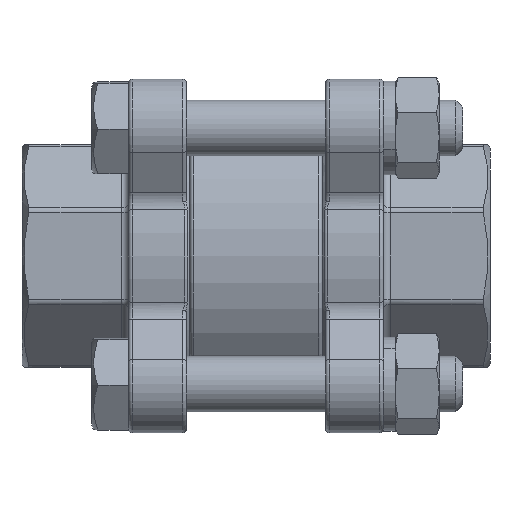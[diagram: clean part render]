
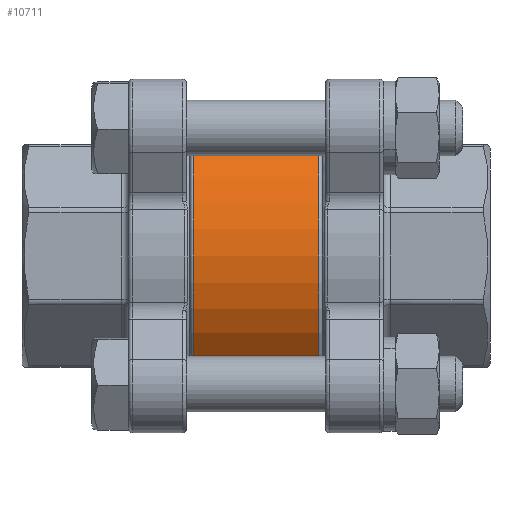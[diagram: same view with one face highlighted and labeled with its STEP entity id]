
A CAD part, front view. The second image highlights one B-rep face of the part: STEP entity #10711.
In plain terms, the highlighted cylindrical face has radius 22.05 mm (diameter 44.1 mm), a partial arc.
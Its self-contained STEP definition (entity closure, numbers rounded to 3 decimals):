
#394 = CYLINDRICAL_SURFACE ( 'NONE', #1617, 22.05 ) ;
#1225 = VERTEX_POINT ( 'NONE', #11566 ) ;
#1240 = ORIENTED_EDGE ( 'NONE', *, *, #7552, .T. ) ;
#1472 = ORIENTED_EDGE ( 'NONE', *, *, #2022, .T. ) ;
#1528 = AXIS2_PLACEMENT_3D ( 'NONE', #10979, #4800, #12018 ) ;
#1617 = AXIS2_PLACEMENT_3D ( 'NONE', #10594, #2425, #3483 ) ;
#2022 = EDGE_CURVE ( 'NONE', #1225, #6417, #6700, .T. ) ;
#2100 = VERTEX_POINT ( 'NONE', #7557 ) ;
#2261 = CARTESIAN_POINT ( 'NONE',  ( 18.5, 0., 0. ) ) ;
#2425 = DIRECTION ( 'NONE',  ( -1., 0., 0. ) ) ;
#2783 = FACE_OUTER_BOUND ( 'NONE', #10462, .T. ) ;
#3298 = DIRECTION ( 'NONE',  ( 0., 0., 1. ) ) ;
#3483 = DIRECTION ( 'NONE',  ( 0., 0., 1. ) ) ;
#3576 = CARTESIAN_POINT ( 'NONE',  ( -3.731, 0., -22.05 ) ) ;
#4611 = DIRECTION ( 'NONE',  ( -1., 0., 0. ) ) ;
#4800 = DIRECTION ( 'NONE',  ( -1., 0., 0. ) ) ;
#4948 = CARTESIAN_POINT ( 'NONE',  ( 0.5, 0., 22.05 ) ) ;
#6417 = VERTEX_POINT ( 'NONE', #4948 ) ;
#6700 = LINE ( 'NONE', #12541, #12170 ) ;
#6780 = EDGE_CURVE ( 'NONE', #8099, #2100, #11863, .T. ) ;
#7407 = DIRECTION ( 'NONE',  ( -1., 0., 0. ) ) ;
#7552 = EDGE_CURVE ( 'NONE', #8099, #1225, #7602, .T. ) ;
#7557 = CARTESIAN_POINT ( 'NONE',  ( 0.5, 0., -22.05 ) ) ;
#7602 = CIRCLE ( 'NONE', #12785, 22.05 ) ;
#7677 = CIRCLE ( 'NONE', #1528, 22.05 ) ;
#8099 = VERTEX_POINT ( 'NONE', #11404 ) ;
#9476 = DIRECTION ( 'NONE',  ( -1., 0., 0. ) ) ;
#9542 = EDGE_CURVE ( 'NONE', #2100, #6417, #7677, .T. ) ;
#9783 = ORIENTED_EDGE ( 'NONE', *, *, #9542, .F. ) ;
#10462 = EDGE_LOOP ( 'NONE', ( #13153, #1240, #1472, #9783 ) ) ;
#10594 = CARTESIAN_POINT ( 'NONE',  ( -3.731, 0., 0. ) ) ;
#10711 = ADVANCED_FACE ( 'NONE', ( #2783 ), #394, .T. ) ;
#10979 = CARTESIAN_POINT ( 'NONE',  ( 0.5, 0., 0. ) ) ;
#11404 = CARTESIAN_POINT ( 'NONE',  ( 18.5, 0., -22.05 ) ) ;
#11523 = VECTOR ( 'NONE', #4611, 1000. ) ;
#11566 = CARTESIAN_POINT ( 'NONE',  ( 18.5, 0., 22.05 ) ) ;
#11863 = LINE ( 'NONE', #3576, #11523 ) ;
#12018 = DIRECTION ( 'NONE',  ( 0., 0., 1. ) ) ;
#12170 = VECTOR ( 'NONE', #7407, 1000. ) ;
#12541 = CARTESIAN_POINT ( 'NONE',  ( -3.731, 0., 22.05 ) ) ;
#12785 = AXIS2_PLACEMENT_3D ( 'NONE', #2261, #9476, #3298 ) ;
#13153 = ORIENTED_EDGE ( 'NONE', *, *, #6780, .F. ) ;
